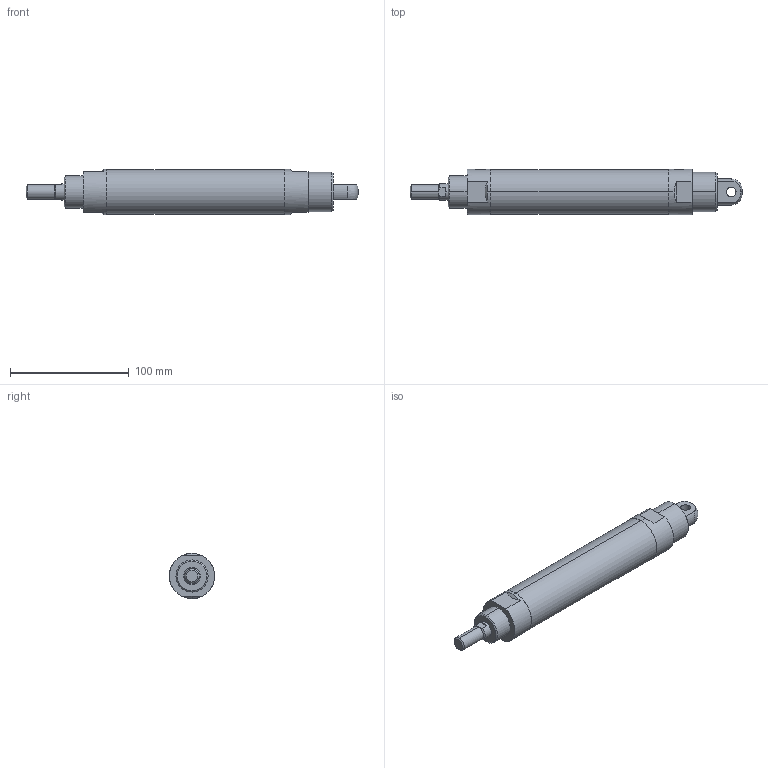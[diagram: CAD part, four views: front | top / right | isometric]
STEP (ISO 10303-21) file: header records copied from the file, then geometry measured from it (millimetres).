
FILE_DESCRIPTION (( 'STEP AP203' ), '1' );
FILE_NAME ('J#2-32-100-C.STEP', '2016-03-08T07:36:39', ( '' ), ( '' ), 'SwSTEP 2.0', 'SolidWorks 2014', '' );
FILE_SCHEMA (( 'CONFIG_CONTROL_DESIGN' ));
Length unit declared in the file: millimetre
Products named in the file (1): J#2-32-100-C
Bounding box: 279 x 38 x 38 mm (x, y, z)
Volume: 241727.9 mm3; surface area: 31774.3 mm2
Topology: 1 solids, 1 shells, 59 faces, 138 edges, 85 vertices
Faces by surface type: cylinder 22, plane 20, cone 15, torus 2
Entity records: 1996 total; most frequent: CARTESIAN_POINT 574, DIRECTION 293, ORIENTED_EDGE 268, EDGE_CURVE 134, AXIS2_PLACEMENT_3D 118, VERTEX_POINT 85, EDGE_LOOP 69, FACE_OUTER_BOUND 59
